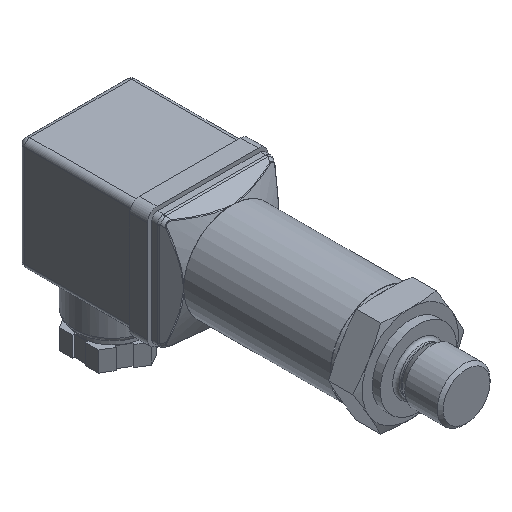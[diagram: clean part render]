
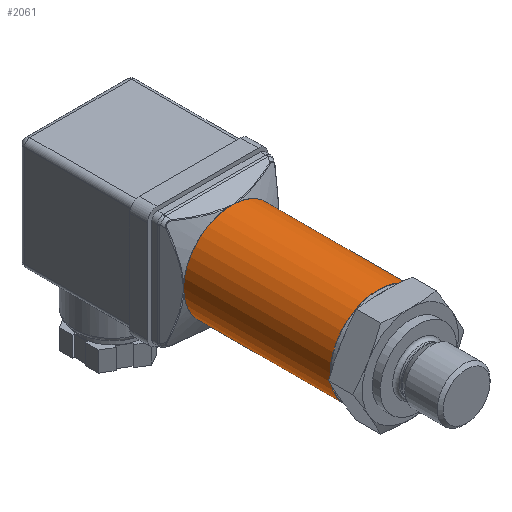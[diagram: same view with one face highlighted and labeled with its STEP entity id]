
A CAD part, isometric view. The second image highlights one B-rep face of the part: STEP entity #2061.
In plain terms, the highlighted cylindrical face has radius 12 mm (diameter 24 mm), a full revolution.
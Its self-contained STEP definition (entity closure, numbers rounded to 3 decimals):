
#498=FACE_BOUND('',#629,.T.);
#511=FACE_OUTER_BOUND('',#628,.T.);
#628=EDGE_LOOP('',(#1378));
#629=EDGE_LOOP('',(#1379));
#758=CIRCLE('',#2204,12.);
#759=CIRCLE('',#2205,12.);
#844=VERTEX_POINT('',#3026);
#845=VERTEX_POINT('',#3028);
#1054=EDGE_CURVE('',#844,#844,#758,.T.);
#1055=EDGE_CURVE('',#845,#845,#759,.T.);
#1378=ORIENTED_EDGE('',*,*,#1054,.T.);
#1379=ORIENTED_EDGE('',*,*,#1055,.F.);
#1912=CYLINDRICAL_SURFACE('',#2203,12.);
#2061=ADVANCED_FACE('',(#511,#498),#1912,.T.);
#2203=AXIS2_PLACEMENT_3D('',#3025,#2424,#2425);
#2204=AXIS2_PLACEMENT_3D('',#3027,#2426,#2427);
#2205=AXIS2_PLACEMENT_3D('',#3029,#2428,#2429);
#2424=DIRECTION('center_axis',(0.,1.,0.));
#2425=DIRECTION('ref_axis',(-1.,0.,0.));
#2426=DIRECTION('center_axis',(0.,1.,0.));
#2427=DIRECTION('ref_axis',(-1.,0.,0.));
#2428=DIRECTION('center_axis',(0.,1.,0.));
#2429=DIRECTION('ref_axis',(-1.,0.,0.));
#3025=CARTESIAN_POINT('Origin',(0.,0.,0.));
#3026=CARTESIAN_POINT('',(-12.,0.,0.));
#3027=CARTESIAN_POINT('Origin',(0.,0.,0.));
#3028=CARTESIAN_POINT('',(-12.,36.5,0.));
#3029=CARTESIAN_POINT('Origin',(0.,36.5,0.));
